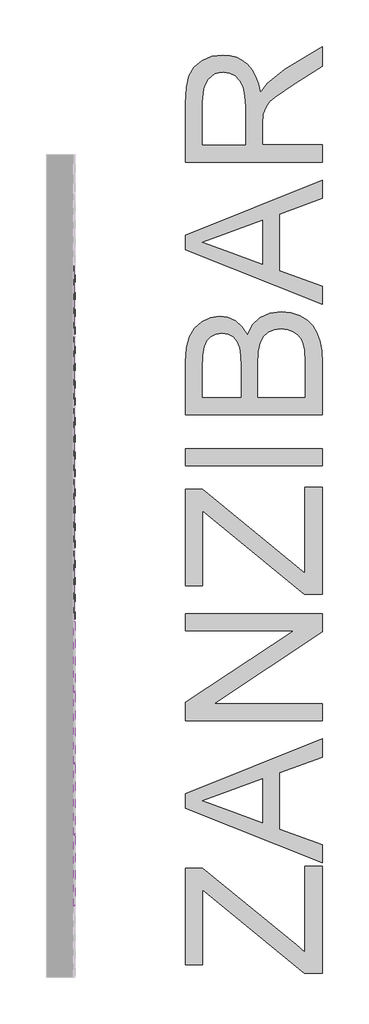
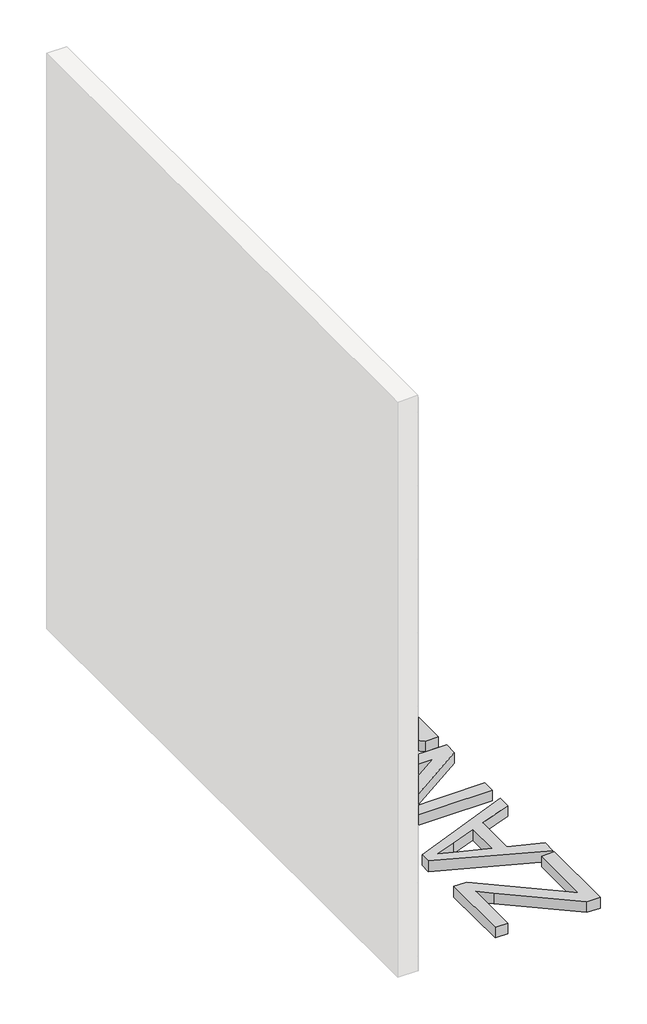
# One storey, part 43 of 45: 128 proxies.
"""IFC4 building model written with IfcOpenShell, lengths in millimetres."""

from ifc_helpers import new_model, si_unit, origin, origin_with_axes, place, context, project, spatial, polyline, outline, extrude, transform, mapped, element, save
from components import generic_models_ab0f2c30

model = new_model("IFC4")

# Units and contexts
model_context = context("Model", 3, world=origin())
ifc_project = project(units=[si_unit("LENGTHUNIT", "METRE", prefix="MILLI")], contexts=[model_context])

# Site, building, storey
site = spatial("IfcSite", under=ifc_project)
building = spatial("IfcBuilding", under=site)
storey = spatial("IfcBuildingStorey", under=building, Name="PORTOBELLO - SHOWROOM", Elevation=0.0)

# Proxies
placement = place(None, origin())
generic_models_shape = generic_models_ab0f2c30(model_context)
element("IfcBuildingElementProxy", 1, Name="PBSHOP - HORIZONTES ZANZIBAR 6,5X23 : ZANZIBAR", ObjectType="PBSHOP - HORIZONTES ZANZIBAR 6,5X23 : ZANZIBAR", at=placement, inside=storey, context=model_context, shape_type="MappedRepresentation", body=[
    mapped(generic_models_shape, transform((69111.8826867, 21050.0864672, 34.5), x_axis=(0.0, 0.0, 1.0), y_axis=(0.0, -1.0, 0.0), z_axis=(1.0, 0.0, 0.0))),
])
element("IfcBuildingElementProxy", 2, Name="PBSHOP - HORIZONTES ZANZIBAR 6,5X23 : ZANZIBAR", ObjectType="PBSHOP - HORIZONTES ZANZIBAR 6,5X23 : ZANZIBAR", at=placement, inside=storey, context=model_context, shape_type="MappedRepresentation", body=[
    mapped(generic_models_shape, transform((69111.8826867, 21284.0864672, 34.5), x_axis=(0.0, 0.0, 1.0), y_axis=(0.0, -1.0, 0.0), z_axis=(1.0, 0.0, 0.0))),
])
element("IfcBuildingElementProxy", 3, Name="PBSHOP - HORIZONTES ZANZIBAR 6,5X23 : ZANZIBAR", ObjectType="PBSHOP - HORIZONTES ZANZIBAR 6,5X23 : ZANZIBAR", at=placement, inside=storey, context=model_context, shape_type="MappedRepresentation", body=[
    mapped(generic_models_shape, transform((69111.8826867, 21518.0864672, 34.5), x_axis=(0.0, 0.0, 1.0), y_axis=(0.0, -1.0, 0.0), z_axis=(1.0, 0.0, 0.0))),
])
element("IfcBuildingElementProxy", 4, Name="PBSHOP - HORIZONTES ZANZIBAR 6,5X23 : ZANZIBAR", ObjectType="PBSHOP - HORIZONTES ZANZIBAR 6,5X23 : ZANZIBAR", at=placement, inside=storey, context=model_context, shape_type="MappedRepresentation", body=[
    mapped(generic_models_shape, transform((69111.8826867, 21752.0864672, 34.5), x_axis=(0.0, 0.0, 1.0), y_axis=(0.0, -1.0, 0.0), z_axis=(1.0, 0.0, 0.0))),
])
element("IfcBuildingElementProxy", 5, Name="PBSHOP - HORIZONTES ZANZIBAR 6,5X23 : ZANZIBAR", ObjectType="PBSHOP - HORIZONTES ZANZIBAR 6,5X23 : ZANZIBAR", at=placement, inside=storey, context=model_context, shape_type="MappedRepresentation", body=[
    mapped(generic_models_shape, transform((69111.8826867, 21986.0864672, 34.5), x_axis=(0.0, 0.0, 1.0), y_axis=(0.0, -1.0, 0.0), z_axis=(1.0, 0.0, 0.0))),
])
element("IfcBuildingElementProxy", 6, Name="PBSHOP - HORIZONTES ZANZIBAR 6,5X23 : ZANZIBAR", ObjectType="PBSHOP - HORIZONTES ZANZIBAR 6,5X23 : ZANZIBAR", at=placement, inside=storey, context=model_context, shape_type="MappedRepresentation", body=[
    mapped(generic_models_shape, transform((69111.8826867, 21050.0864672, 103.5), x_axis=(0.0, 0.0, 1.0), y_axis=(0.0, -1.0, 0.0), z_axis=(1.0, 0.0, 0.0))),
])
element("IfcBuildingElementProxy", 7, Name="PBSHOP - HORIZONTES ZANZIBAR 6,5X23 : ZANZIBAR", ObjectType="PBSHOP - HORIZONTES ZANZIBAR 6,5X23 : ZANZIBAR", at=placement, inside=storey, context=model_context, shape_type="MappedRepresentation", body=[
    mapped(generic_models_shape, transform((69111.8826867, 21284.0864672, 103.5), x_axis=(0.0, 0.0, 1.0), y_axis=(0.0, -1.0, 0.0), z_axis=(1.0, 0.0, 0.0))),
])
element("IfcBuildingElementProxy", 8, Name="PBSHOP - HORIZONTES ZANZIBAR 6,5X23 : ZANZIBAR", ObjectType="PBSHOP - HORIZONTES ZANZIBAR 6,5X23 : ZANZIBAR", at=placement, inside=storey, context=model_context, shape_type="MappedRepresentation", body=[
    mapped(generic_models_shape, transform((69111.8826867, 21518.0864672, 103.5), x_axis=(0.0, 0.0, 1.0), y_axis=(0.0, -1.0, 0.0), z_axis=(1.0, 0.0, 0.0))),
])
element("IfcBuildingElementProxy", 9, Name="PBSHOP - HORIZONTES ZANZIBAR 6,5X23 : ZANZIBAR", ObjectType="PBSHOP - HORIZONTES ZANZIBAR 6,5X23 : ZANZIBAR", at=placement, inside=storey, context=model_context, shape_type="MappedRepresentation", body=[
    mapped(generic_models_shape, transform((69111.8826867, 21752.0864672, 103.5), x_axis=(0.0, 0.0, 1.0), y_axis=(0.0, -1.0, 0.0), z_axis=(1.0, 0.0, 0.0))),
])
element("IfcBuildingElementProxy", 10, Name="PBSHOP - HORIZONTES ZANZIBAR 6,5X23 : ZANZIBAR", ObjectType="PBSHOP - HORIZONTES ZANZIBAR 6,5X23 : ZANZIBAR", at=placement, inside=storey, context=model_context, shape_type="MappedRepresentation", body=[
    mapped(generic_models_shape, transform((69111.8826867, 21986.0864672, 103.5), x_axis=(0.0, 0.0, 1.0), y_axis=(0.0, -1.0, 0.0), z_axis=(1.0, 0.0, 0.0))),
])
element("IfcBuildingElementProxy", 11, Name="PBSHOP - HORIZONTES ZANZIBAR 6,5X23 : ZANZIBAR", ObjectType="PBSHOP - HORIZONTES ZANZIBAR 6,5X23 : ZANZIBAR", at=placement, inside=storey, context=model_context, shape_type="MappedRepresentation", body=[
    mapped(generic_models_shape, transform((69111.8826867, 21050.0864672, 172.5), x_axis=(0.0, 0.0, 1.0), y_axis=(0.0, -1.0, 0.0), z_axis=(1.0, 0.0, 0.0))),
])
element("IfcBuildingElementProxy", 12, Name="PBSHOP - HORIZONTES ZANZIBAR 6,5X23 : ZANZIBAR", ObjectType="PBSHOP - HORIZONTES ZANZIBAR 6,5X23 : ZANZIBAR", at=placement, inside=storey, context=model_context, shape_type="MappedRepresentation", body=[
    mapped(generic_models_shape, transform((69111.8826867, 21284.0864672, 172.5), x_axis=(0.0, 0.0, 1.0), y_axis=(0.0, -1.0, 0.0), z_axis=(1.0, 0.0, 0.0))),
])
element("IfcBuildingElementProxy", 13, Name="PBSHOP - HORIZONTES ZANZIBAR 6,5X23 : ZANZIBAR", ObjectType="PBSHOP - HORIZONTES ZANZIBAR 6,5X23 : ZANZIBAR", at=placement, inside=storey, context=model_context, shape_type="MappedRepresentation", body=[
    mapped(generic_models_shape, transform((69111.8826867, 21518.0864672, 172.5), x_axis=(0.0, 0.0, 1.0), y_axis=(0.0, -1.0, 0.0), z_axis=(1.0, 0.0, 0.0))),
])
element("IfcBuildingElementProxy", 14, Name="PBSHOP - HORIZONTES ZANZIBAR 6,5X23 : ZANZIBAR", ObjectType="PBSHOP - HORIZONTES ZANZIBAR 6,5X23 : ZANZIBAR", at=placement, inside=storey, context=model_context, shape_type="MappedRepresentation", body=[
    mapped(generic_models_shape, transform((69111.8826867, 21752.0864672, 172.5), x_axis=(0.0, 0.0, 1.0), y_axis=(0.0, -1.0, 0.0), z_axis=(1.0, 0.0, 0.0))),
])
element("IfcBuildingElementProxy", 15, Name="PBSHOP - HORIZONTES ZANZIBAR 6,5X23 : ZANZIBAR", ObjectType="PBSHOP - HORIZONTES ZANZIBAR 6,5X23 : ZANZIBAR", at=placement, inside=storey, context=model_context, shape_type="MappedRepresentation", body=[
    mapped(generic_models_shape, transform((69111.8826867, 21986.0864672, 172.5), x_axis=(0.0, 0.0, 1.0), y_axis=(0.0, -1.0, 0.0), z_axis=(1.0, 0.0, 0.0))),
])
element("IfcBuildingElementProxy", 16, Name="PBSHOP - HORIZONTES ZANZIBAR 6,5X23 : ZANZIBAR", ObjectType="PBSHOP - HORIZONTES ZANZIBAR 6,5X23 : ZANZIBAR", at=placement, inside=storey, context=model_context, shape_type="MappedRepresentation", body=[
    mapped(generic_models_shape, transform((69111.8826867, 21050.0864672, 241.5), x_axis=(0.0, 0.0, 1.0), y_axis=(0.0, -1.0, 0.0), z_axis=(1.0, 0.0, 0.0))),
])
element("IfcBuildingElementProxy", 17, Name="PBSHOP - HORIZONTES ZANZIBAR 6,5X23 : ZANZIBAR", ObjectType="PBSHOP - HORIZONTES ZANZIBAR 6,5X23 : ZANZIBAR", at=placement, inside=storey, context=model_context, shape_type="MappedRepresentation", body=[
    mapped(generic_models_shape, transform((69111.8826867, 21284.0864672, 241.5), x_axis=(0.0, 0.0, 1.0), y_axis=(0.0, -1.0, 0.0), z_axis=(1.0, 0.0, 0.0))),
])
element("IfcBuildingElementProxy", 18, Name="PBSHOP - HORIZONTES ZANZIBAR 6,5X23 : ZANZIBAR", ObjectType="PBSHOP - HORIZONTES ZANZIBAR 6,5X23 : ZANZIBAR", at=placement, inside=storey, context=model_context, shape_type="MappedRepresentation", body=[
    mapped(generic_models_shape, transform((69111.8826867, 21518.0864672, 241.5), x_axis=(0.0, 0.0, 1.0), y_axis=(0.0, -1.0, 0.0), z_axis=(1.0, 0.0, 0.0))),
])
element("IfcBuildingElementProxy", 19, Name="PBSHOP - HORIZONTES ZANZIBAR 6,5X23 : ZANZIBAR", ObjectType="PBSHOP - HORIZONTES ZANZIBAR 6,5X23 : ZANZIBAR", at=placement, inside=storey, context=model_context, shape_type="MappedRepresentation", body=[
    mapped(generic_models_shape, transform((69111.8826867, 21752.0864672, 241.5), x_axis=(0.0, 0.0, 1.0), y_axis=(0.0, -1.0, 0.0), z_axis=(1.0, 0.0, 0.0))),
])
element("IfcBuildingElementProxy", 20, Name="PBSHOP - HORIZONTES ZANZIBAR 6,5X23 : ZANZIBAR", ObjectType="PBSHOP - HORIZONTES ZANZIBAR 6,5X23 : ZANZIBAR", at=placement, inside=storey, context=model_context, shape_type="MappedRepresentation", body=[
    mapped(generic_models_shape, transform((69111.8826867, 21986.0864672, 241.5), x_axis=(0.0, 0.0, 1.0), y_axis=(0.0, -1.0, 0.0), z_axis=(1.0, 0.0, 0.0))),
])
element("IfcBuildingElementProxy", 21, Name="PBSHOP - HORIZONTES ZANZIBAR 6,5X23 : ZANZIBAR", ObjectType="PBSHOP - HORIZONTES ZANZIBAR 6,5X23 : ZANZIBAR", at=placement, inside=storey, context=model_context, shape_type="MappedRepresentation", body=[
    mapped(generic_models_shape, transform((69111.8826867, 21050.0864672, 310.5), x_axis=(0.0, 0.0, 1.0), y_axis=(0.0, -1.0, 0.0), z_axis=(1.0, 0.0, 0.0))),
])
element("IfcBuildingElementProxy", 22, Name="PBSHOP - HORIZONTES ZANZIBAR 6,5X23 : ZANZIBAR", ObjectType="PBSHOP - HORIZONTES ZANZIBAR 6,5X23 : ZANZIBAR", at=placement, inside=storey, context=model_context, shape_type="MappedRepresentation", body=[
    mapped(generic_models_shape, transform((69111.8826867, 21284.0864672, 310.5), x_axis=(0.0, 0.0, 1.0), y_axis=(0.0, -1.0, 0.0), z_axis=(1.0, 0.0, 0.0))),
])
element("IfcBuildingElementProxy", 23, Name="PBSHOP - HORIZONTES ZANZIBAR 6,5X23 : ZANZIBAR", ObjectType="PBSHOP - HORIZONTES ZANZIBAR 6,5X23 : ZANZIBAR", at=placement, inside=storey, context=model_context, shape_type="MappedRepresentation", body=[
    mapped(generic_models_shape, transform((69111.8826867, 21518.0864672, 310.5), x_axis=(0.0, 0.0, 1.0), y_axis=(0.0, -1.0, 0.0), z_axis=(1.0, 0.0, 0.0))),
])
element("IfcBuildingElementProxy", 24, Name="PBSHOP - HORIZONTES ZANZIBAR 6,5X23 : ZANZIBAR", ObjectType="PBSHOP - HORIZONTES ZANZIBAR 6,5X23 : ZANZIBAR", at=placement, inside=storey, context=model_context, shape_type="MappedRepresentation", body=[
    mapped(generic_models_shape, transform((69111.8826867, 21752.0864672, 310.5), x_axis=(0.0, 0.0, 1.0), y_axis=(0.0, -1.0, 0.0), z_axis=(1.0, 0.0, 0.0))),
])
element("IfcBuildingElementProxy", 25, Name="PBSHOP - HORIZONTES ZANZIBAR 6,5X23 : ZANZIBAR", ObjectType="PBSHOP - HORIZONTES ZANZIBAR 6,5X23 : ZANZIBAR", at=placement, inside=storey, context=model_context, shape_type="MappedRepresentation", body=[
    mapped(generic_models_shape, transform((69111.8826867, 21986.0864672, 310.5), x_axis=(0.0, 0.0, 1.0), y_axis=(0.0, -1.0, 0.0), z_axis=(1.0, 0.0, 0.0))),
])
element("IfcBuildingElementProxy", 26, Name="PBSHOP - HORIZONTES ZANZIBAR 6,5X23 : ZANZIBAR", ObjectType="PBSHOP - HORIZONTES ZANZIBAR 6,5X23 : ZANZIBAR", at=placement, inside=storey, context=model_context, shape_type="MappedRepresentation", body=[
    mapped(generic_models_shape, transform((69111.8826867, 21050.0864672, 379.5), x_axis=(0.0, 0.0, 1.0), y_axis=(0.0, -1.0, 0.0), z_axis=(1.0, 0.0, 0.0))),
])
element("IfcBuildingElementProxy", 27, Name="PBSHOP - HORIZONTES ZANZIBAR 6,5X23 : ZANZIBAR", ObjectType="PBSHOP - HORIZONTES ZANZIBAR 6,5X23 : ZANZIBAR", at=placement, inside=storey, context=model_context, shape_type="MappedRepresentation", body=[
    mapped(generic_models_shape, transform((69111.8826867, 21284.0864672, 379.5), x_axis=(0.0, 0.0, 1.0), y_axis=(0.0, -1.0, 0.0), z_axis=(1.0, 0.0, 0.0))),
])
element("IfcBuildingElementProxy", 28, Name="PBSHOP - HORIZONTES ZANZIBAR 6,5X23 : ZANZIBAR", ObjectType="PBSHOP - HORIZONTES ZANZIBAR 6,5X23 : ZANZIBAR", at=placement, inside=storey, context=model_context, shape_type="MappedRepresentation", body=[
    mapped(generic_models_shape, transform((69111.8826867, 21518.0864672, 379.5), x_axis=(0.0, 0.0, 1.0), y_axis=(0.0, -1.0, 0.0), z_axis=(1.0, 0.0, 0.0))),
])
element("IfcBuildingElementProxy", 29, Name="PBSHOP - HORIZONTES ZANZIBAR 6,5X23 : ZANZIBAR", ObjectType="PBSHOP - HORIZONTES ZANZIBAR 6,5X23 : ZANZIBAR", at=placement, inside=storey, context=model_context, shape_type="MappedRepresentation", body=[
    mapped(generic_models_shape, transform((69111.8826867, 21752.0864672, 379.5), x_axis=(0.0, 0.0, 1.0), y_axis=(0.0, -1.0, 0.0), z_axis=(1.0, 0.0, 0.0))),
])
element("IfcBuildingElementProxy", 30, Name="PBSHOP - HORIZONTES ZANZIBAR 6,5X23 : ZANZIBAR", ObjectType="PBSHOP - HORIZONTES ZANZIBAR 6,5X23 : ZANZIBAR", at=placement, inside=storey, context=model_context, shape_type="MappedRepresentation", body=[
    mapped(generic_models_shape, transform((69111.8826867, 21986.0864672, 379.5), x_axis=(0.0, 0.0, 1.0), y_axis=(0.0, -1.0, 0.0), z_axis=(1.0, 0.0, 0.0))),
])
element("IfcBuildingElementProxy", 31, Name="PBSHOP - HORIZONTES ZANZIBAR 6,5X23 : ZANZIBAR", ObjectType="PBSHOP - HORIZONTES ZANZIBAR 6,5X23 : ZANZIBAR", at=placement, inside=storey, context=model_context, shape_type="MappedRepresentation", body=[
    mapped(generic_models_shape, transform((69111.8826867, 21050.0864672, 448.5), x_axis=(0.0, 0.0, 1.0), y_axis=(0.0, -1.0, 0.0), z_axis=(1.0, 0.0, 0.0))),
])
element("IfcBuildingElementProxy", 32, Name="PBSHOP - HORIZONTES ZANZIBAR 6,5X23 : ZANZIBAR", ObjectType="PBSHOP - HORIZONTES ZANZIBAR 6,5X23 : ZANZIBAR", at=placement, inside=storey, context=model_context, shape_type="MappedRepresentation", body=[
    mapped(generic_models_shape, transform((69111.8826867, 21284.0864672, 448.5), x_axis=(0.0, 0.0, 1.0), y_axis=(0.0, -1.0, 0.0), z_axis=(1.0, 0.0, 0.0))),
])
element("IfcBuildingElementProxy", 33, Name="PBSHOP - HORIZONTES ZANZIBAR 6,5X23 : ZANZIBAR", ObjectType="PBSHOP - HORIZONTES ZANZIBAR 6,5X23 : ZANZIBAR", at=placement, inside=storey, context=model_context, shape_type="MappedRepresentation", body=[
    mapped(generic_models_shape, transform((69111.8826867, 21518.0864672, 448.5), x_axis=(0.0, 0.0, 1.0), y_axis=(0.0, -1.0, 0.0), z_axis=(1.0, 0.0, 0.0))),
])
element("IfcBuildingElementProxy", 34, Name="PBSHOP - HORIZONTES ZANZIBAR 6,5X23 : ZANZIBAR", ObjectType="PBSHOP - HORIZONTES ZANZIBAR 6,5X23 : ZANZIBAR", at=placement, inside=storey, context=model_context, shape_type="MappedRepresentation", body=[
    mapped(generic_models_shape, transform((69111.8826867, 21752.0864672, 448.5), x_axis=(0.0, 0.0, 1.0), y_axis=(0.0, -1.0, 0.0), z_axis=(1.0, 0.0, 0.0))),
])
element("IfcBuildingElementProxy", 35, Name="PBSHOP - HORIZONTES ZANZIBAR 6,5X23 : ZANZIBAR", ObjectType="PBSHOP - HORIZONTES ZANZIBAR 6,5X23 : ZANZIBAR", at=placement, inside=storey, context=model_context, shape_type="MappedRepresentation", body=[
    mapped(generic_models_shape, transform((69111.8826867, 21986.0864672, 448.5), x_axis=(0.0, 0.0, 1.0), y_axis=(0.0, -1.0, 0.0), z_axis=(1.0, 0.0, 0.0))),
])
element("IfcBuildingElementProxy", 36, Name="PBSHOP - HORIZONTES ZANZIBAR 6,5X23 : ZANZIBAR", ObjectType="PBSHOP - HORIZONTES ZANZIBAR 6,5X23 : ZANZIBAR", at=placement, inside=storey, context=model_context, shape_type="MappedRepresentation", body=[
    mapped(generic_models_shape, transform((69111.8826867, 21050.0864672, 517.5), x_axis=(0.0, 0.0, 1.0), y_axis=(0.0, -1.0, 0.0), z_axis=(1.0, 0.0, 0.0))),
])
element("IfcBuildingElementProxy", 37, Name="PBSHOP - HORIZONTES ZANZIBAR 6,5X23 : ZANZIBAR", ObjectType="PBSHOP - HORIZONTES ZANZIBAR 6,5X23 : ZANZIBAR", at=placement, inside=storey, context=model_context, shape_type="MappedRepresentation", body=[
    mapped(generic_models_shape, transform((69111.8826867, 21284.0864672, 517.5), x_axis=(0.0, 0.0, 1.0), y_axis=(0.0, -1.0, 0.0), z_axis=(1.0, 0.0, 0.0))),
])
element("IfcBuildingElementProxy", 38, Name="PBSHOP - HORIZONTES ZANZIBAR 6,5X23 : ZANZIBAR", ObjectType="PBSHOP - HORIZONTES ZANZIBAR 6,5X23 : ZANZIBAR", at=placement, inside=storey, context=model_context, shape_type="MappedRepresentation", body=[
    mapped(generic_models_shape, transform((69111.8826867, 21518.0864672, 517.5), x_axis=(0.0, 0.0, 1.0), y_axis=(0.0, -1.0, 0.0), z_axis=(1.0, 0.0, 0.0))),
])
element("IfcBuildingElementProxy", 39, Name="PBSHOP - HORIZONTES ZANZIBAR 6,5X23 : ZANZIBAR", ObjectType="PBSHOP - HORIZONTES ZANZIBAR 6,5X23 : ZANZIBAR", at=placement, inside=storey, context=model_context, shape_type="MappedRepresentation", body=[
    mapped(generic_models_shape, transform((69111.8826867, 21752.0864672, 517.5), x_axis=(0.0, 0.0, 1.0), y_axis=(0.0, -1.0, 0.0), z_axis=(1.0, 0.0, 0.0))),
])
element("IfcBuildingElementProxy", 40, Name="PBSHOP - HORIZONTES ZANZIBAR 6,5X23 : ZANZIBAR", ObjectType="PBSHOP - HORIZONTES ZANZIBAR 6,5X23 : ZANZIBAR", at=placement, inside=storey, context=model_context, shape_type="MappedRepresentation", body=[
    mapped(generic_models_shape, transform((69111.8826867, 21986.0864672, 517.5), x_axis=(0.0, 0.0, 1.0), y_axis=(0.0, -1.0, 0.0), z_axis=(1.0, 0.0, 0.0))),
])
element("IfcBuildingElementProxy", 41, Name="PBSHOP - HORIZONTES ZANZIBAR 6,5X23 : ZANZIBAR", ObjectType="PBSHOP - HORIZONTES ZANZIBAR 6,5X23 : ZANZIBAR", at=placement, inside=storey, context=model_context, shape_type="MappedRepresentation", body=[
    mapped(generic_models_shape, transform((69111.8826867, 21050.0864672, 586.5), x_axis=(0.0, 0.0, 1.0), y_axis=(0.0, -1.0, 0.0), z_axis=(1.0, 0.0, 0.0))),
])
element("IfcBuildingElementProxy", 42, Name="PBSHOP - HORIZONTES ZANZIBAR 6,5X23 : ZANZIBAR", ObjectType="PBSHOP - HORIZONTES ZANZIBAR 6,5X23 : ZANZIBAR", at=placement, inside=storey, context=model_context, shape_type="MappedRepresentation", body=[
    mapped(generic_models_shape, transform((69111.8826867, 21284.0864672, 586.5), x_axis=(0.0, 0.0, 1.0), y_axis=(0.0, -1.0, 0.0), z_axis=(1.0, 0.0, 0.0))),
])
element("IfcBuildingElementProxy", 43, Name="PBSHOP - HORIZONTES ZANZIBAR 6,5X23 : ZANZIBAR", ObjectType="PBSHOP - HORIZONTES ZANZIBAR 6,5X23 : ZANZIBAR", at=placement, inside=storey, context=model_context, shape_type="MappedRepresentation", body=[
    mapped(generic_models_shape, transform((69111.8826867, 21518.0864672, 586.5), x_axis=(0.0, 0.0, 1.0), y_axis=(0.0, -1.0, 0.0), z_axis=(1.0, 0.0, 0.0))),
])
element("IfcBuildingElementProxy", 44, Name="PBSHOP - HORIZONTES ZANZIBAR 6,5X23 : ZANZIBAR", ObjectType="PBSHOP - HORIZONTES ZANZIBAR 6,5X23 : ZANZIBAR", at=placement, inside=storey, context=model_context, shape_type="MappedRepresentation", body=[
    mapped(generic_models_shape, transform((69111.8826867, 21752.0864672, 586.5), x_axis=(0.0, 0.0, 1.0), y_axis=(0.0, -1.0, 0.0), z_axis=(1.0, 0.0, 0.0))),
])
element("IfcBuildingElementProxy", 45, Name="PBSHOP - HORIZONTES ZANZIBAR 6,5X23 : ZANZIBAR", ObjectType="PBSHOP - HORIZONTES ZANZIBAR 6,5X23 : ZANZIBAR", at=placement, inside=storey, context=model_context, shape_type="MappedRepresentation", body=[
    mapped(generic_models_shape, transform((69111.8826867, 21986.0864672, 586.5), x_axis=(0.0, 0.0, 1.0), y_axis=(0.0, -1.0, 0.0), z_axis=(1.0, 0.0, 0.0))),
])
element("IfcBuildingElementProxy", 46, Name="PBSHOP - HORIZONTES ZANZIBAR 6,5X23 : ZANZIBAR", ObjectType="PBSHOP - HORIZONTES ZANZIBAR 6,5X23 : ZANZIBAR", at=placement, inside=storey, context=model_context, shape_type="MappedRepresentation", body=[
    mapped(generic_models_shape, transform((69111.8826867, 21050.0864672, 655.5), x_axis=(0.0, 0.0, 1.0), y_axis=(0.0, -1.0, 0.0), z_axis=(1.0, 0.0, 0.0))),
])
element("IfcBuildingElementProxy", 47, Name="PBSHOP - HORIZONTES ZANZIBAR 6,5X23 : ZANZIBAR", ObjectType="PBSHOP - HORIZONTES ZANZIBAR 6,5X23 : ZANZIBAR", at=placement, inside=storey, context=model_context, shape_type="MappedRepresentation", body=[
    mapped(generic_models_shape, transform((69111.8826867, 21284.0864672, 655.5), x_axis=(0.0, 0.0, 1.0), y_axis=(0.0, -1.0, 0.0), z_axis=(1.0, 0.0, 0.0))),
])
element("IfcBuildingElementProxy", 48, Name="PBSHOP - HORIZONTES ZANZIBAR 6,5X23 : ZANZIBAR", ObjectType="PBSHOP - HORIZONTES ZANZIBAR 6,5X23 : ZANZIBAR", at=placement, inside=storey, context=model_context, shape_type="MappedRepresentation", body=[
    mapped(generic_models_shape, transform((69111.8826867, 21518.0864672, 655.5), x_axis=(0.0, 0.0, 1.0), y_axis=(0.0, -1.0, 0.0), z_axis=(1.0, 0.0, 0.0))),
])
element("IfcBuildingElementProxy", 49, Name="PBSHOP - HORIZONTES ZANZIBAR 6,5X23 : ZANZIBAR", ObjectType="PBSHOP - HORIZONTES ZANZIBAR 6,5X23 : ZANZIBAR", at=placement, inside=storey, context=model_context, shape_type="MappedRepresentation", body=[
    mapped(generic_models_shape, transform((69111.8826867, 21752.0864672, 655.5), x_axis=(0.0, 0.0, 1.0), y_axis=(0.0, -1.0, 0.0), z_axis=(1.0, 0.0, 0.0))),
])
element("IfcBuildingElementProxy", 50, Name="PBSHOP - HORIZONTES ZANZIBAR 6,5X23 : ZANZIBAR", ObjectType="PBSHOP - HORIZONTES ZANZIBAR 6,5X23 : ZANZIBAR", at=placement, inside=storey, context=model_context, shape_type="MappedRepresentation", body=[
    mapped(generic_models_shape, transform((69111.8826867, 21986.0864672, 655.5), x_axis=(0.0, 0.0, 1.0), y_axis=(0.0, -1.0, 0.0), z_axis=(1.0, 0.0, 0.0))),
])
element("IfcBuildingElementProxy", 51, Name="PBSHOP - HORIZONTES ZANZIBAR 6,5X23 : ZANZIBAR", ObjectType="PBSHOP - HORIZONTES ZANZIBAR 6,5X23 : ZANZIBAR", at=placement, inside=storey, context=model_context, shape_type="MappedRepresentation", body=[
    mapped(generic_models_shape, transform((69111.8826867, 21050.0864672, 724.5), x_axis=(0.0, 0.0, 1.0), y_axis=(0.0, -1.0, 0.0), z_axis=(1.0, 0.0, 0.0))),
])
element("IfcBuildingElementProxy", 52, Name="PBSHOP - HORIZONTES ZANZIBAR 6,5X23 : ZANZIBAR", ObjectType="PBSHOP - HORIZONTES ZANZIBAR 6,5X23 : ZANZIBAR", at=placement, inside=storey, context=model_context, shape_type="MappedRepresentation", body=[
    mapped(generic_models_shape, transform((69111.8826867, 21284.0864672, 724.5), x_axis=(0.0, 0.0, 1.0), y_axis=(0.0, -1.0, 0.0), z_axis=(1.0, 0.0, 0.0))),
])
element("IfcBuildingElementProxy", 53, Name="PBSHOP - HORIZONTES ZANZIBAR 6,5X23 : ZANZIBAR", ObjectType="PBSHOP - HORIZONTES ZANZIBAR 6,5X23 : ZANZIBAR", at=placement, inside=storey, context=model_context, shape_type="MappedRepresentation", body=[
    mapped(generic_models_shape, transform((69111.8826867, 21518.0864672, 724.5), x_axis=(0.0, 0.0, 1.0), y_axis=(0.0, -1.0, 0.0), z_axis=(1.0, 0.0, 0.0))),
])
element("IfcBuildingElementProxy", 54, Name="PBSHOP - HORIZONTES ZANZIBAR 6,5X23 : ZANZIBAR", ObjectType="PBSHOP - HORIZONTES ZANZIBAR 6,5X23 : ZANZIBAR", at=placement, inside=storey, context=model_context, shape_type="MappedRepresentation", body=[
    mapped(generic_models_shape, transform((69111.8826867, 21752.0864672, 724.5), x_axis=(0.0, 0.0, 1.0), y_axis=(0.0, -1.0, 0.0), z_axis=(1.0, 0.0, 0.0))),
])
element("IfcBuildingElementProxy", 55, Name="PBSHOP - HORIZONTES ZANZIBAR 6,5X23 : ZANZIBAR", ObjectType="PBSHOP - HORIZONTES ZANZIBAR 6,5X23 : ZANZIBAR", at=placement, inside=storey, context=model_context, shape_type="MappedRepresentation", body=[
    mapped(generic_models_shape, transform((69111.8826867, 21986.0864672, 724.5), x_axis=(0.0, 0.0, 1.0), y_axis=(0.0, -1.0, 0.0), z_axis=(1.0, 0.0, 0.0))),
])
element("IfcBuildingElementProxy", 56, Name="PBSHOP - HORIZONTES ZANZIBAR 6,5X23 : ZANZIBAR", ObjectType="PBSHOP - HORIZONTES ZANZIBAR 6,5X23 : ZANZIBAR", at=placement, inside=storey, context=model_context, shape_type="MappedRepresentation", body=[
    mapped(generic_models_shape, transform((69111.8826867, 21050.0864672, 793.5), x_axis=(0.0, 0.0, 1.0), y_axis=(0.0, -1.0, 0.0), z_axis=(1.0, 0.0, 0.0))),
])
element("IfcBuildingElementProxy", 57, Name="PBSHOP - HORIZONTES ZANZIBAR 6,5X23 : ZANZIBAR", ObjectType="PBSHOP - HORIZONTES ZANZIBAR 6,5X23 : ZANZIBAR", at=placement, inside=storey, context=model_context, shape_type="MappedRepresentation", body=[
    mapped(generic_models_shape, transform((69111.8826867, 21284.0864672, 793.5), x_axis=(0.0, 0.0, 1.0), y_axis=(0.0, -1.0, 0.0), z_axis=(1.0, 0.0, 0.0))),
])
element("IfcBuildingElementProxy", 58, Name="PBSHOP - HORIZONTES ZANZIBAR 6,5X23 : ZANZIBAR", ObjectType="PBSHOP - HORIZONTES ZANZIBAR 6,5X23 : ZANZIBAR", at=placement, inside=storey, context=model_context, shape_type="MappedRepresentation", body=[
    mapped(generic_models_shape, transform((69111.8826867, 21518.0864672, 793.5), x_axis=(0.0, 0.0, 1.0), y_axis=(0.0, -1.0, 0.0), z_axis=(1.0, 0.0, 0.0))),
])
element("IfcBuildingElementProxy", 59, Name="PBSHOP - HORIZONTES ZANZIBAR 6,5X23 : ZANZIBAR", ObjectType="PBSHOP - HORIZONTES ZANZIBAR 6,5X23 : ZANZIBAR", at=placement, inside=storey, context=model_context, shape_type="MappedRepresentation", body=[
    mapped(generic_models_shape, transform((69111.8826867, 21752.0864672, 793.5), x_axis=(0.0, 0.0, 1.0), y_axis=(0.0, -1.0, 0.0), z_axis=(1.0, 0.0, 0.0))),
])
element("IfcBuildingElementProxy", 60, Name="PBSHOP - HORIZONTES ZANZIBAR 6,5X23 : ZANZIBAR", ObjectType="PBSHOP - HORIZONTES ZANZIBAR 6,5X23 : ZANZIBAR", at=placement, inside=storey, context=model_context, shape_type="MappedRepresentation", body=[
    mapped(generic_models_shape, transform((69111.8826867, 21986.0864672, 793.5), x_axis=(0.0, 0.0, 1.0), y_axis=(0.0, -1.0, 0.0), z_axis=(1.0, 0.0, 0.0))),
])
element("IfcBuildingElementProxy", 61, Name="PBSHOP - HORIZONTES ZANZIBAR 6,5X23 : ZANZIBAR", ObjectType="PBSHOP - HORIZONTES ZANZIBAR 6,5X23 : ZANZIBAR", at=placement, inside=storey, context=model_context, shape_type="MappedRepresentation", body=[
    mapped(generic_models_shape, transform((69111.8826867, 21050.0864672, 862.5), x_axis=(0.0, 0.0, 1.0), y_axis=(0.0, -1.0, 0.0), z_axis=(1.0, 0.0, 0.0))),
])
element("IfcBuildingElementProxy", 62, Name="PBSHOP - HORIZONTES ZANZIBAR 6,5X23 : ZANZIBAR", ObjectType="PBSHOP - HORIZONTES ZANZIBAR 6,5X23 : ZANZIBAR", at=placement, inside=storey, context=model_context, shape_type="MappedRepresentation", body=[
    mapped(generic_models_shape, transform((69111.8826867, 21284.0864672, 862.5), x_axis=(0.0, 0.0, 1.0), y_axis=(0.0, -1.0, 0.0), z_axis=(1.0, 0.0, 0.0))),
])
element("IfcBuildingElementProxy", 63, Name="PBSHOP - HORIZONTES ZANZIBAR 6,5X23 : ZANZIBAR", ObjectType="PBSHOP - HORIZONTES ZANZIBAR 6,5X23 : ZANZIBAR", at=placement, inside=storey, context=model_context, shape_type="MappedRepresentation", body=[
    mapped(generic_models_shape, transform((69111.8826867, 21518.0864672, 862.5), x_axis=(0.0, 0.0, 1.0), y_axis=(0.0, -1.0, 0.0), z_axis=(1.0, 0.0, 0.0))),
])
element("IfcBuildingElementProxy", 64, Name="PBSHOP - HORIZONTES ZANZIBAR 6,5X23 : ZANZIBAR", ObjectType="PBSHOP - HORIZONTES ZANZIBAR 6,5X23 : ZANZIBAR", at=placement, inside=storey, context=model_context, shape_type="MappedRepresentation", body=[
    mapped(generic_models_shape, transform((69111.8826867, 21752.0864672, 862.5), x_axis=(0.0, 0.0, 1.0), y_axis=(0.0, -1.0, 0.0), z_axis=(1.0, 0.0, 0.0))),
])
element("IfcBuildingElementProxy", 65, Name="PBSHOP - HORIZONTES ZANZIBAR 6,5X23 : ZANZIBAR", ObjectType="PBSHOP - HORIZONTES ZANZIBAR 6,5X23 : ZANZIBAR", at=placement, inside=storey, context=model_context, shape_type="MappedRepresentation", body=[
    mapped(generic_models_shape, transform((69111.8826867, 21986.0864672, 862.5), x_axis=(0.0, 0.0, 1.0), y_axis=(0.0, -1.0, 0.0), z_axis=(1.0, 0.0, 0.0))),
])
element("IfcBuildingElementProxy", 66, Name="PBSHOP - HORIZONTES ZANZIBAR 6,5X23 : ZANZIBAR", ObjectType="PBSHOP - HORIZONTES ZANZIBAR 6,5X23 : ZANZIBAR", at=placement, inside=storey, context=model_context, shape_type="MappedRepresentation", body=[
    mapped(generic_models_shape, transform((69111.8826867, 21050.0864672, 931.5), x_axis=(0.0, 0.0, 1.0), y_axis=(0.0, -1.0, 0.0), z_axis=(1.0, 0.0, 0.0))),
])
element("IfcBuildingElementProxy", 67, Name="PBSHOP - HORIZONTES ZANZIBAR 6,5X23 : ZANZIBAR", ObjectType="PBSHOP - HORIZONTES ZANZIBAR 6,5X23 : ZANZIBAR", at=placement, inside=storey, context=model_context, shape_type="MappedRepresentation", body=[
    mapped(generic_models_shape, transform((69111.8826867, 21284.0864672, 931.5), x_axis=(0.0, 0.0, 1.0), y_axis=(0.0, -1.0, 0.0), z_axis=(1.0, 0.0, 0.0))),
])
element("IfcBuildingElementProxy", 68, Name="PBSHOP - HORIZONTES ZANZIBAR 6,5X23 : ZANZIBAR", ObjectType="PBSHOP - HORIZONTES ZANZIBAR 6,5X23 : ZANZIBAR", at=placement, inside=storey, context=model_context, shape_type="MappedRepresentation", body=[
    mapped(generic_models_shape, transform((69111.8826867, 21518.0864672, 931.5), x_axis=(0.0, 0.0, 1.0), y_axis=(0.0, -1.0, 0.0), z_axis=(1.0, 0.0, 0.0))),
])
element("IfcBuildingElementProxy", 69, Name="PBSHOP - HORIZONTES ZANZIBAR 6,5X23 : ZANZIBAR", ObjectType="PBSHOP - HORIZONTES ZANZIBAR 6,5X23 : ZANZIBAR", at=placement, inside=storey, context=model_context, shape_type="MappedRepresentation", body=[
    mapped(generic_models_shape, transform((69111.8826867, 21752.0864672, 931.5), x_axis=(0.0, 0.0, 1.0), y_axis=(0.0, -1.0, 0.0), z_axis=(1.0, 0.0, 0.0))),
])
element("IfcBuildingElementProxy", 70, Name="PBSHOP - HORIZONTES ZANZIBAR 6,5X23 : ZANZIBAR", ObjectType="PBSHOP - HORIZONTES ZANZIBAR 6,5X23 : ZANZIBAR", at=placement, inside=storey, context=model_context, shape_type="MappedRepresentation", body=[
    mapped(generic_models_shape, transform((69111.8826867, 21986.0864672, 931.5), x_axis=(0.0, 0.0, 1.0), y_axis=(0.0, -1.0, 0.0), z_axis=(1.0, 0.0, 0.0))),
])
element("IfcBuildingElementProxy", 71, Name="PBSHOP - HORIZONTES ZANZIBAR 6,5X23 : ZANZIBAR", ObjectType="PBSHOP - HORIZONTES ZANZIBAR 6,5X23 : ZANZIBAR", at=placement, inside=storey, context=model_context, shape_type="MappedRepresentation", body=[
    mapped(generic_models_shape, transform((69111.8826867, 21050.0864672, 1000.5), x_axis=(0.0, 0.0, 1.0), y_axis=(0.0, -1.0, 0.0), z_axis=(1.0, 0.0, 0.0))),
])
element("IfcBuildingElementProxy", 72, Name="PBSHOP - HORIZONTES ZANZIBAR 6,5X23 : ZANZIBAR", ObjectType="PBSHOP - HORIZONTES ZANZIBAR 6,5X23 : ZANZIBAR", at=placement, inside=storey, context=model_context, shape_type="MappedRepresentation", body=[
    mapped(generic_models_shape, transform((69111.8826867, 21284.0864672, 1000.5), x_axis=(0.0, 0.0, 1.0), y_axis=(0.0, -1.0, 0.0), z_axis=(1.0, 0.0, 0.0))),
])
element("IfcBuildingElementProxy", 73, Name="PBSHOP - HORIZONTES ZANZIBAR 6,5X23 : ZANZIBAR", ObjectType="PBSHOP - HORIZONTES ZANZIBAR 6,5X23 : ZANZIBAR", at=placement, inside=storey, context=model_context, shape_type="MappedRepresentation", body=[
    mapped(generic_models_shape, transform((69111.8826867, 21518.0864672, 1000.5), x_axis=(0.0, 0.0, 1.0), y_axis=(0.0, -1.0, 0.0), z_axis=(1.0, 0.0, 0.0))),
])
element("IfcBuildingElementProxy", 74, Name="PBSHOP - HORIZONTES ZANZIBAR 6,5X23 : ZANZIBAR", ObjectType="PBSHOP - HORIZONTES ZANZIBAR 6,5X23 : ZANZIBAR", at=placement, inside=storey, context=model_context, shape_type="MappedRepresentation", body=[
    mapped(generic_models_shape, transform((69111.8826867, 21752.0864672, 1000.5), x_axis=(0.0, 0.0, 1.0), y_axis=(0.0, -1.0, 0.0), z_axis=(1.0, 0.0, 0.0))),
])
element("IfcBuildingElementProxy", 75, Name="PBSHOP - HORIZONTES ZANZIBAR 6,5X23 : ZANZIBAR", ObjectType="PBSHOP - HORIZONTES ZANZIBAR 6,5X23 : ZANZIBAR", at=placement, inside=storey, context=model_context, shape_type="MappedRepresentation", body=[
    mapped(generic_models_shape, transform((69111.8826867, 21986.0864672, 1000.5), x_axis=(0.0, 0.0, 1.0), y_axis=(0.0, -1.0, 0.0), z_axis=(1.0, 0.0, 0.0))),
])
element("IfcBuildingElementProxy", 76, Name="PBSHOP - HORIZONTES ZANZIBAR 6,5X23 : ZANZIBAR", ObjectType="PBSHOP - HORIZONTES ZANZIBAR 6,5X23 : ZANZIBAR", at=placement, inside=storey, context=model_context, shape_type="MappedRepresentation", body=[
    mapped(generic_models_shape, transform((69111.8826867, 21050.0864672, 1069.5), x_axis=(0.0, 0.0, 1.0), y_axis=(0.0, -1.0, 0.0), z_axis=(1.0, 0.0, 0.0))),
])
element("IfcBuildingElementProxy", 77, Name="PBSHOP - HORIZONTES ZANZIBAR 6,5X23 : ZANZIBAR", ObjectType="PBSHOP - HORIZONTES ZANZIBAR 6,5X23 : ZANZIBAR", at=placement, inside=storey, context=model_context, shape_type="MappedRepresentation", body=[
    mapped(generic_models_shape, transform((69111.8826867, 21284.0864672, 1069.5), x_axis=(0.0, 0.0, 1.0), y_axis=(0.0, -1.0, 0.0), z_axis=(1.0, 0.0, 0.0))),
])
element("IfcBuildingElementProxy", 78, Name="PBSHOP - HORIZONTES ZANZIBAR 6,5X23 : ZANZIBAR", ObjectType="PBSHOP - HORIZONTES ZANZIBAR 6,5X23 : ZANZIBAR", at=placement, inside=storey, context=model_context, shape_type="MappedRepresentation", body=[
    mapped(generic_models_shape, transform((69111.8826867, 21518.0864672, 1069.5), x_axis=(0.0, 0.0, 1.0), y_axis=(0.0, -1.0, 0.0), z_axis=(1.0, 0.0, 0.0))),
])
element("IfcBuildingElementProxy", 79, Name="PBSHOP - HORIZONTES ZANZIBAR 6,5X23 : ZANZIBAR", ObjectType="PBSHOP - HORIZONTES ZANZIBAR 6,5X23 : ZANZIBAR", at=placement, inside=storey, context=model_context, shape_type="MappedRepresentation", body=[
    mapped(generic_models_shape, transform((69111.8826867, 21752.0864672, 1069.5), x_axis=(0.0, 0.0, 1.0), y_axis=(0.0, -1.0, 0.0), z_axis=(1.0, 0.0, 0.0))),
])
element("IfcBuildingElementProxy", 80, Name="PBSHOP - HORIZONTES ZANZIBAR 6,5X23 : ZANZIBAR", ObjectType="PBSHOP - HORIZONTES ZANZIBAR 6,5X23 : ZANZIBAR", at=placement, inside=storey, context=model_context, shape_type="MappedRepresentation", body=[
    mapped(generic_models_shape, transform((69111.8826867, 21986.0864672, 1069.5), x_axis=(0.0, 0.0, 1.0), y_axis=(0.0, -1.0, 0.0), z_axis=(1.0, 0.0, 0.0))),
])
element("IfcBuildingElementProxy", 81, Name="PBSHOP - HORIZONTES ZANZIBAR 6,5X23 : ZANZIBAR", ObjectType="PBSHOP - HORIZONTES ZANZIBAR 6,5X23 : ZANZIBAR", at=placement, inside=storey, context=model_context, shape_type="MappedRepresentation", body=[
    mapped(generic_models_shape, transform((69111.8826867, 21050.0864672, 1138.5), x_axis=(0.0, 0.0, 1.0), y_axis=(0.0, -1.0, 0.0), z_axis=(1.0, 0.0, 0.0))),
])
element("IfcBuildingElementProxy", 82, Name="PBSHOP - HORIZONTES ZANZIBAR 6,5X23 : ZANZIBAR", ObjectType="PBSHOP - HORIZONTES ZANZIBAR 6,5X23 : ZANZIBAR", at=placement, inside=storey, context=model_context, shape_type="MappedRepresentation", body=[
    mapped(generic_models_shape, transform((69111.8826867, 21284.0864672, 1138.5), x_axis=(0.0, 0.0, 1.0), y_axis=(0.0, -1.0, 0.0), z_axis=(1.0, 0.0, 0.0))),
])
element("IfcBuildingElementProxy", 83, Name="PBSHOP - HORIZONTES ZANZIBAR 6,5X23 : ZANZIBAR", ObjectType="PBSHOP - HORIZONTES ZANZIBAR 6,5X23 : ZANZIBAR", at=placement, inside=storey, context=model_context, shape_type="MappedRepresentation", body=[
    mapped(generic_models_shape, transform((69111.8826867, 21518.0864672, 1138.5), x_axis=(0.0, 0.0, 1.0), y_axis=(0.0, -1.0, 0.0), z_axis=(1.0, 0.0, 0.0))),
])
element("IfcBuildingElementProxy", 84, Name="PBSHOP - HORIZONTES ZANZIBAR 6,5X23 : ZANZIBAR", ObjectType="PBSHOP - HORIZONTES ZANZIBAR 6,5X23 : ZANZIBAR", at=placement, inside=storey, context=model_context, shape_type="MappedRepresentation", body=[
    mapped(generic_models_shape, transform((69111.8826867, 21752.0864672, 1138.5), x_axis=(0.0, 0.0, 1.0), y_axis=(0.0, -1.0, 0.0), z_axis=(1.0, 0.0, 0.0))),
])
element("IfcBuildingElementProxy", 85, Name="PBSHOP - HORIZONTES ZANZIBAR 6,5X23 : ZANZIBAR", ObjectType="PBSHOP - HORIZONTES ZANZIBAR 6,5X23 : ZANZIBAR", at=placement, inside=storey, context=model_context, shape_type="MappedRepresentation", body=[
    mapped(generic_models_shape, transform((69111.8826867, 21986.0864672, 1138.5), x_axis=(0.0, 0.0, 1.0), y_axis=(0.0, -1.0, 0.0), z_axis=(1.0, 0.0, 0.0))),
])
element("IfcBuildingElementProxy", 86, Name="PBSHOP - HORIZONTES ZANZIBAR 6,5X23 : ZANZIBAR", ObjectType="PBSHOP - HORIZONTES ZANZIBAR 6,5X23 : ZANZIBAR", at=placement, inside=storey, context=model_context, shape_type="MappedRepresentation", body=[
    mapped(generic_models_shape, transform((69111.8826867, 21050.0864672, 1207.5), x_axis=(0.0, 0.0, 1.0), y_axis=(0.0, -1.0, 0.0), z_axis=(1.0, 0.0, 0.0))),
])
element("IfcBuildingElementProxy", 87, Name="PBSHOP - HORIZONTES ZANZIBAR 6,5X23 : ZANZIBAR", ObjectType="PBSHOP - HORIZONTES ZANZIBAR 6,5X23 : ZANZIBAR", at=placement, inside=storey, context=model_context, shape_type="MappedRepresentation", body=[
    mapped(generic_models_shape, transform((69111.8826867, 21284.0864672, 1207.5), x_axis=(0.0, 0.0, 1.0), y_axis=(0.0, -1.0, 0.0), z_axis=(1.0, 0.0, 0.0))),
])
element("IfcBuildingElementProxy", 88, Name="PBSHOP - HORIZONTES ZANZIBAR 6,5X23 : ZANZIBAR", ObjectType="PBSHOP - HORIZONTES ZANZIBAR 6,5X23 : ZANZIBAR", at=placement, inside=storey, context=model_context, shape_type="MappedRepresentation", body=[
    mapped(generic_models_shape, transform((69111.8826867, 21518.0864672, 1207.5), x_axis=(0.0, 0.0, 1.0), y_axis=(0.0, -1.0, 0.0), z_axis=(1.0, 0.0, 0.0))),
])
element("IfcBuildingElementProxy", 89, Name="PBSHOP - HORIZONTES ZANZIBAR 6,5X23 : ZANZIBAR", ObjectType="PBSHOP - HORIZONTES ZANZIBAR 6,5X23 : ZANZIBAR", at=placement, inside=storey, context=model_context, shape_type="MappedRepresentation", body=[
    mapped(generic_models_shape, transform((69111.8826867, 21752.0864672, 1207.5), x_axis=(0.0, 0.0, 1.0), y_axis=(0.0, -1.0, 0.0), z_axis=(1.0, 0.0, 0.0))),
])
element("IfcBuildingElementProxy", 90, Name="PBSHOP - HORIZONTES ZANZIBAR 6,5X23 : ZANZIBAR", ObjectType="PBSHOP - HORIZONTES ZANZIBAR 6,5X23 : ZANZIBAR", at=placement, inside=storey, context=model_context, shape_type="MappedRepresentation", body=[
    mapped(generic_models_shape, transform((69111.8826867, 21986.0864672, 1207.5), x_axis=(0.0, 0.0, 1.0), y_axis=(0.0, -1.0, 0.0), z_axis=(1.0, 0.0, 0.0))),
])
element("IfcBuildingElementProxy", 91, Name="PBSHOP - HORIZONTES ZANZIBAR 6,5X23 : ZANZIBAR", ObjectType="PBSHOP - HORIZONTES ZANZIBAR 6,5X23 : ZANZIBAR", at=placement, inside=storey, context=model_context, shape_type="MappedRepresentation", body=[
    mapped(generic_models_shape, transform((69111.8826867, 20816.0864672, 2035.5), x_axis=(0.0, 0.0, 1.0), y_axis=(0.0, -1.0, 0.0), z_axis=(1.0, 0.0, 0.0))),
])
element("IfcBuildingElementProxy", 92, Name="PBSHOP - HORIZONTES ZANZIBAR 6,5X23 : ZANZIBAR", ObjectType="PBSHOP - HORIZONTES ZANZIBAR 6,5X23 : ZANZIBAR", at=placement, inside=storey, context=model_context, shape_type="MappedRepresentation", body=[
    mapped(generic_models_shape, transform((69111.8826867, 20114.0864672, 2104.5), x_axis=(0.0, 0.0, 1.0), y_axis=(0.0, -1.0, 0.0), z_axis=(1.0, 0.0, 0.0))),
])
element("IfcBuildingElementProxy", 93, Name="PBSHOP - HORIZONTES ZANZIBAR 6,5X23 : ZANZIBAR", ObjectType="PBSHOP - HORIZONTES ZANZIBAR 6,5X23 : ZANZIBAR", at=placement, inside=storey, context=model_context, shape_type="MappedRepresentation", body=[
    mapped(generic_models_shape, transform((69111.8826867, 20348.0864672, 2104.5), x_axis=(0.0, 0.0, 1.0), y_axis=(0.0, -1.0, 0.0), z_axis=(1.0, 0.0, 0.0))),
])
element("IfcBuildingElementProxy", 94, Name="PBSHOP - HORIZONTES ZANZIBAR 6,5X23 : ZANZIBAR", ObjectType="PBSHOP - HORIZONTES ZANZIBAR 6,5X23 : ZANZIBAR", at=placement, inside=storey, context=model_context, shape_type="MappedRepresentation", body=[
    mapped(generic_models_shape, transform((69111.8826867, 20582.0864672, 2104.5), x_axis=(0.0, 0.0, 1.0), y_axis=(0.0, -1.0, 0.0), z_axis=(1.0, 0.0, 0.0))),
])
element("IfcBuildingElementProxy", 95, Name="PBSHOP - HORIZONTES ZANZIBAR 6,5X23 : ZANZIBAR", ObjectType="PBSHOP - HORIZONTES ZANZIBAR 6,5X23 : ZANZIBAR", at=placement, inside=storey, context=model_context, shape_type="MappedRepresentation", body=[
    mapped(generic_models_shape, transform((69111.8826867, 20816.0864672, 2104.5), x_axis=(0.0, 0.0, 1.0), y_axis=(0.0, -1.0, 0.0), z_axis=(1.0, 0.0, 0.0))),
])
element("IfcBuildingElementProxy", 96, Name="PBSHOP - HORIZONTES ZANZIBAR 6,5X23 : ZANZIBAR", ObjectType="PBSHOP - HORIZONTES ZANZIBAR 6,5X23 : ZANZIBAR", at=placement, inside=storey, context=model_context, shape_type="MappedRepresentation", body=[
    mapped(generic_models_shape, transform((69111.8826867, 20114.0864672, 2173.5), x_axis=(0.0, 0.0, 1.0), y_axis=(0.0, -1.0, 0.0), z_axis=(1.0, 0.0, 0.0))),
])
element("IfcBuildingElementProxy", 97, Name="PBSHOP - HORIZONTES ZANZIBAR 6,5X23 : ZANZIBAR", ObjectType="PBSHOP - HORIZONTES ZANZIBAR 6,5X23 : ZANZIBAR", at=placement, inside=storey, context=model_context, shape_type="MappedRepresentation", body=[
    mapped(generic_models_shape, transform((69111.8826867, 20348.0864672, 2173.5), x_axis=(0.0, 0.0, 1.0), y_axis=(0.0, -1.0, 0.0), z_axis=(1.0, 0.0, 0.0))),
])
element("IfcBuildingElementProxy", 98, Name="PBSHOP - HORIZONTES ZANZIBAR 6,5X23 : ZANZIBAR", ObjectType="PBSHOP - HORIZONTES ZANZIBAR 6,5X23 : ZANZIBAR", at=placement, inside=storey, context=model_context, shape_type="MappedRepresentation", body=[
    mapped(generic_models_shape, transform((69111.8826867, 20582.0864672, 2173.5), x_axis=(0.0, 0.0, 1.0), y_axis=(0.0, -1.0, 0.0), z_axis=(1.0, 0.0, 0.0))),
])
element("IfcBuildingElementProxy", 99, Name="PBSHOP - HORIZONTES ZANZIBAR 6,5X23 : ZANZIBAR", ObjectType="PBSHOP - HORIZONTES ZANZIBAR 6,5X23 : ZANZIBAR", at=placement, inside=storey, context=model_context, shape_type="MappedRepresentation", body=[
    mapped(generic_models_shape, transform((69111.8826867, 20816.0864672, 2173.5), x_axis=(0.0, 0.0, 1.0), y_axis=(0.0, -1.0, 0.0), z_axis=(1.0, 0.0, 0.0))),
])
element("IfcBuildingElementProxy", 100, Name="PBSHOP - HORIZONTES ZANZIBAR 6,5X23 : ZANZIBAR", ObjectType="PBSHOP - HORIZONTES ZANZIBAR 6,5X23 : ZANZIBAR", at=placement, inside=storey, context=model_context, shape_type="MappedRepresentation", body=[
    mapped(generic_models_shape, transform((69111.8826867, 20114.0864672, 2242.5), x_axis=(0.0, 0.0, 1.0), y_axis=(0.0, -1.0, 0.0), z_axis=(1.0, 0.0, 0.0))),
])
element("IfcBuildingElementProxy", 101, Name="PBSHOP - HORIZONTES ZANZIBAR 6,5X23 : ZANZIBAR", ObjectType="PBSHOP - HORIZONTES ZANZIBAR 6,5X23 : ZANZIBAR", at=placement, inside=storey, context=model_context, shape_type="MappedRepresentation", body=[
    mapped(generic_models_shape, transform((69111.8826867, 20348.0864672, 2242.5), x_axis=(0.0, 0.0, 1.0), y_axis=(0.0, -1.0, 0.0), z_axis=(1.0, 0.0, 0.0))),
])
element("IfcBuildingElementProxy", 102, Name="PBSHOP - HORIZONTES ZANZIBAR 6,5X23 : ZANZIBAR", ObjectType="PBSHOP - HORIZONTES ZANZIBAR 6,5X23 : ZANZIBAR", at=placement, inside=storey, context=model_context, shape_type="MappedRepresentation", body=[
    mapped(generic_models_shape, transform((69111.8826867, 20582.0864672, 2242.5), x_axis=(0.0, 0.0, 1.0), y_axis=(0.0, -1.0, 0.0), z_axis=(1.0, 0.0, 0.0))),
])
element("IfcBuildingElementProxy", 103, Name="PBSHOP - HORIZONTES ZANZIBAR 6,5X23 : ZANZIBAR", ObjectType="PBSHOP - HORIZONTES ZANZIBAR 6,5X23 : ZANZIBAR", at=placement, inside=storey, context=model_context, shape_type="MappedRepresentation", body=[
    mapped(generic_models_shape, transform((69111.8826867, 20816.0864672, 2242.5), x_axis=(0.0, 0.0, 1.0), y_axis=(0.0, -1.0, 0.0), z_axis=(1.0, 0.0, 0.0))),
])
element("IfcBuildingElementProxy", 104, Name="PBSHOP - HORIZONTES ZANZIBAR 6,5X23 : ZANZIBAR", ObjectType="PBSHOP - HORIZONTES ZANZIBAR 6,5X23 : ZANZIBAR", at=placement, inside=storey, context=model_context, shape_type="MappedRepresentation", body=[
    mapped(generic_models_shape, transform((69111.8826867, 20114.0864672, 2311.5), x_axis=(0.0, 0.0, 1.0), y_axis=(0.0, -1.0, 0.0), z_axis=(1.0, 0.0, 0.0))),
])
element("IfcBuildingElementProxy", 105, Name="PBSHOP - HORIZONTES ZANZIBAR 6,5X23 : ZANZIBAR", ObjectType="PBSHOP - HORIZONTES ZANZIBAR 6,5X23 : ZANZIBAR", at=placement, inside=storey, context=model_context, shape_type="MappedRepresentation", body=[
    mapped(generic_models_shape, transform((69111.8826867, 20348.0864672, 2311.5), x_axis=(0.0, 0.0, 1.0), y_axis=(0.0, -1.0, 0.0), z_axis=(1.0, 0.0, 0.0))),
])
element("IfcBuildingElementProxy", 106, Name="PBSHOP - HORIZONTES ZANZIBAR 6,5X23 : ZANZIBAR", ObjectType="PBSHOP - HORIZONTES ZANZIBAR 6,5X23 : ZANZIBAR", at=placement, inside=storey, context=model_context, shape_type="MappedRepresentation", body=[
    mapped(generic_models_shape, transform((69111.8826867, 20582.0864672, 2311.5), x_axis=(0.0, 0.0, 1.0), y_axis=(0.0, -1.0, 0.0), z_axis=(1.0, 0.0, 0.0))),
])
element("IfcBuildingElementProxy", 107, Name="PBSHOP - HORIZONTES ZANZIBAR 6,5X23 : ZANZIBAR", ObjectType="PBSHOP - HORIZONTES ZANZIBAR 6,5X23 : ZANZIBAR", at=placement, inside=storey, context=model_context, shape_type="MappedRepresentation", body=[
    mapped(generic_models_shape, transform((69111.8826867, 20816.0864672, 2311.5), x_axis=(0.0, 0.0, 1.0), y_axis=(0.0, -1.0, 0.0), z_axis=(1.0, 0.0, 0.0))),
])
element("IfcBuildingElementProxy", 108, Name="PBSHOP - HORIZONTES ZANZIBAR 6,5X23 : ZANZIBAR", ObjectType="PBSHOP - HORIZONTES ZANZIBAR 6,5X23 : ZANZIBAR", at=placement, inside=storey, context=model_context, shape_type="MappedRepresentation", body=[
    mapped(generic_models_shape, transform((69111.8826867, 20114.0864672, 2380.5), x_axis=(0.0, 0.0, 1.0), y_axis=(0.0, -1.0, 0.0), z_axis=(1.0, 0.0, 0.0))),
])
element("IfcBuildingElementProxy", 109, Name="PBSHOP - HORIZONTES ZANZIBAR 6,5X23 : ZANZIBAR", ObjectType="PBSHOP - HORIZONTES ZANZIBAR 6,5X23 : ZANZIBAR", at=placement, inside=storey, context=model_context, shape_type="MappedRepresentation", body=[
    mapped(generic_models_shape, transform((69111.8826867, 20348.0864672, 2380.5), x_axis=(0.0, 0.0, 1.0), y_axis=(0.0, -1.0, 0.0), z_axis=(1.0, 0.0, 0.0))),
])
element("IfcBuildingElementProxy", 110, Name="PBSHOP - HORIZONTES ZANZIBAR 6,5X23 : ZANZIBAR", ObjectType="PBSHOP - HORIZONTES ZANZIBAR 6,5X23 : ZANZIBAR", at=placement, inside=storey, context=model_context, shape_type="MappedRepresentation", body=[
    mapped(generic_models_shape, transform((69111.8826867, 20582.0864672, 2380.5), x_axis=(0.0, 0.0, 1.0), y_axis=(0.0, -1.0, 0.0), z_axis=(1.0, 0.0, 0.0))),
])
element("IfcBuildingElementProxy", 111, Name="PBSHOP - HORIZONTES ZANZIBAR 6,5X23 : ZANZIBAR", ObjectType="PBSHOP - HORIZONTES ZANZIBAR 6,5X23 : ZANZIBAR", at=placement, inside=storey, context=model_context, shape_type="MappedRepresentation", body=[
    mapped(generic_models_shape, transform((69111.8826867, 20816.0864672, 2380.5), x_axis=(0.0, 0.0, 1.0), y_axis=(0.0, -1.0, 0.0), z_axis=(1.0, 0.0, 0.0))),
])
element("IfcBuildingElementProxy", 112, Name="PBSHOP - HORIZONTES ZANZIBAR 6,5X23 : ZANZIBAR", ObjectType="PBSHOP - HORIZONTES ZANZIBAR 6,5X23 : ZANZIBAR", at=placement, inside=storey, context=model_context, shape_type="MappedRepresentation", body=[
    mapped(generic_models_shape, transform((69111.8826867, 20114.0864672, 2449.5), x_axis=(0.0, 0.0, 1.0), y_axis=(0.0, -1.0, 0.0), z_axis=(1.0, 0.0, 0.0))),
])
element("IfcBuildingElementProxy", 113, Name="PBSHOP - HORIZONTES ZANZIBAR 6,5X23 : ZANZIBAR", ObjectType="PBSHOP - HORIZONTES ZANZIBAR 6,5X23 : ZANZIBAR", at=placement, inside=storey, context=model_context, shape_type="MappedRepresentation", body=[
    mapped(generic_models_shape, transform((69111.8826867, 20348.0864672, 2449.5), x_axis=(0.0, 0.0, 1.0), y_axis=(0.0, -1.0, 0.0), z_axis=(1.0, 0.0, 0.0))),
])
element("IfcBuildingElementProxy", 114, Name="PBSHOP - HORIZONTES ZANZIBAR 6,5X23 : ZANZIBAR", ObjectType="PBSHOP - HORIZONTES ZANZIBAR 6,5X23 : ZANZIBAR", at=placement, inside=storey, context=model_context, shape_type="MappedRepresentation", body=[
    mapped(generic_models_shape, transform((69111.8826867, 20582.0864672, 2449.5), x_axis=(0.0, 0.0, 1.0), y_axis=(0.0, -1.0, 0.0), z_axis=(1.0, 0.0, 0.0))),
])
element("IfcBuildingElementProxy", 115, Name="PBSHOP - HORIZONTES ZANZIBAR 6,5X23 : ZANZIBAR", ObjectType="PBSHOP - HORIZONTES ZANZIBAR 6,5X23 : ZANZIBAR", at=placement, inside=storey, context=model_context, shape_type="MappedRepresentation", body=[
    mapped(generic_models_shape, transform((69111.8826867, 20816.0864672, 2449.5), x_axis=(0.0, 0.0, 1.0), y_axis=(0.0, -1.0, 0.0), z_axis=(1.0, 0.0, 0.0))),
])
element("IfcBuildingElementProxy", 116, Name="PBSHOP - HORIZONTES ZANZIBAR 6,5X23 : ZANZIBAR", ObjectType="PBSHOP - HORIZONTES ZANZIBAR 6,5X23 : ZANZIBAR", at=placement, inside=storey, context=model_context, shape_type="MappedRepresentation", body=[
    mapped(generic_models_shape, transform((69111.8826867, 20114.0864672, 2518.5), x_axis=(0.0, 0.0, 1.0), y_axis=(0.0, -1.0, 0.0), z_axis=(1.0, 0.0, 0.0))),
])
element("IfcBuildingElementProxy", 117, Name="PBSHOP - HORIZONTES ZANZIBAR 6,5X23 : ZANZIBAR", ObjectType="PBSHOP - HORIZONTES ZANZIBAR 6,5X23 : ZANZIBAR", at=placement, inside=storey, context=model_context, shape_type="MappedRepresentation", body=[
    mapped(generic_models_shape, transform((69111.8826867, 20348.0864672, 2518.5), x_axis=(0.0, 0.0, 1.0), y_axis=(0.0, -1.0, 0.0), z_axis=(1.0, 0.0, 0.0))),
])
element("IfcBuildingElementProxy", 118, Name="PBSHOP - HORIZONTES ZANZIBAR 6,5X23 : ZANZIBAR", ObjectType="PBSHOP - HORIZONTES ZANZIBAR 6,5X23 : ZANZIBAR", at=placement, inside=storey, context=model_context, shape_type="MappedRepresentation", body=[
    mapped(generic_models_shape, transform((69111.8826867, 20582.0864672, 2518.5), x_axis=(0.0, 0.0, 1.0), y_axis=(0.0, -1.0, 0.0), z_axis=(1.0, 0.0, 0.0))),
])
element("IfcBuildingElementProxy", 119, Name="PBSHOP - HORIZONTES ZANZIBAR 6,5X23 : ZANZIBAR", ObjectType="PBSHOP - HORIZONTES ZANZIBAR 6,5X23 : ZANZIBAR", at=placement, inside=storey, context=model_context, shape_type="MappedRepresentation", body=[
    mapped(generic_models_shape, transform((69111.8826867, 20816.0864672, 2518.5), x_axis=(0.0, 0.0, 1.0), y_axis=(0.0, -1.0, 0.0), z_axis=(1.0, 0.0, 0.0))),
])
element("IfcBuildingElementProxy", 120, Name="PBSHOP - HORIZONTES ZANZIBAR 6,5X23 : ZANZIBAR", ObjectType="PBSHOP - HORIZONTES ZANZIBAR 6,5X23 : ZANZIBAR", at=placement, inside=storey, context=model_context, shape_type="MappedRepresentation", body=[
    mapped(generic_models_shape, transform((69111.8826867, 20114.0864672, 2587.5), x_axis=(0.0, 0.0, 1.0), y_axis=(0.0, -1.0, 0.0), z_axis=(1.0, 0.0, 0.0))),
])
element("IfcBuildingElementProxy", 121, Name="PBSHOP - HORIZONTES ZANZIBAR 6,5X23 : ZANZIBAR", ObjectType="PBSHOP - HORIZONTES ZANZIBAR 6,5X23 : ZANZIBAR", at=placement, inside=storey, context=model_context, shape_type="MappedRepresentation", body=[
    mapped(generic_models_shape, transform((69111.8826867, 20348.0864672, 2587.5), x_axis=(0.0, 0.0, 1.0), y_axis=(0.0, -1.0, 0.0), z_axis=(1.0, 0.0, 0.0))),
])
element("IfcBuildingElementProxy", 122, Name="PBSHOP - HORIZONTES ZANZIBAR 6,5X23 : ZANZIBAR", ObjectType="PBSHOP - HORIZONTES ZANZIBAR 6,5X23 : ZANZIBAR", at=placement, inside=storey, context=model_context, shape_type="MappedRepresentation", body=[
    mapped(generic_models_shape, transform((69111.8826867, 20582.0864672, 2587.5), x_axis=(0.0, 0.0, 1.0), y_axis=(0.0, -1.0, 0.0), z_axis=(1.0, 0.0, 0.0))),
])
element("IfcBuildingElementProxy", 123, Name="PBSHOP - HORIZONTES ZANZIBAR 6,5X23 : ZANZIBAR", ObjectType="PBSHOP - HORIZONTES ZANZIBAR 6,5X23 : ZANZIBAR", at=placement, inside=storey, context=model_context, shape_type="MappedRepresentation", body=[
    mapped(generic_models_shape, transform((69111.8826867, 20816.0864672, 2587.5), x_axis=(0.0, 0.0, 1.0), y_axis=(0.0, -1.0, 0.0), z_axis=(1.0, 0.0, 0.0))),
])
element("IfcBuildingElementProxy", 124, Name="PBSHOP - HORIZONTES ZANZIBAR 6,5X23 : ZANZIBAR", ObjectType="PBSHOP - HORIZONTES ZANZIBAR 6,5X23 : ZANZIBAR", at=placement, inside=storey, context=model_context, shape_type="MappedRepresentation", body=[
    mapped(generic_models_shape, transform((69111.8826867, 20114.0864672, 2656.5), x_axis=(0.0, 0.0, 1.0), y_axis=(0.0, -1.0, 0.0), z_axis=(1.0, 0.0, 0.0))),
])
element("IfcBuildingElementProxy", 125, Name="PBSHOP - HORIZONTES ZANZIBAR 6,5X23 : ZANZIBAR", ObjectType="PBSHOP - HORIZONTES ZANZIBAR 6,5X23 : ZANZIBAR", at=placement, inside=storey, context=model_context, shape_type="MappedRepresentation", body=[
    mapped(generic_models_shape, transform((69111.8826867, 20348.0864672, 2656.5), x_axis=(0.0, 0.0, 1.0), y_axis=(0.0, -1.0, 0.0), z_axis=(1.0, 0.0, 0.0))),
])
element("IfcBuildingElementProxy", 126, Name="PBSHOP - HORIZONTES ZANZIBAR 6,5X23 : ZANZIBAR", ObjectType="PBSHOP - HORIZONTES ZANZIBAR 6,5X23 : ZANZIBAR", at=placement, inside=storey, context=model_context, shape_type="MappedRepresentation", body=[
    mapped(generic_models_shape, transform((69111.8826867, 20582.0864672, 2656.5), x_axis=(0.0, 0.0, 1.0), y_axis=(0.0, -1.0, 0.0), z_axis=(1.0, 0.0, 0.0))),
])
element("IfcBuildingElementProxy", 127, Name="PBSHOP - HORIZONTES ZANZIBAR 6,5X23 : ZANZIBAR", ObjectType="PBSHOP - HORIZONTES ZANZIBAR 6,5X23 : ZANZIBAR", at=placement, inside=storey, context=model_context, shape_type="MappedRepresentation", body=[
    mapped(generic_models_shape, transform((69111.8826867, 20816.0864672, 2656.5), x_axis=(0.0, 0.0, 1.0), y_axis=(0.0, -1.0, 0.0), z_axis=(1.0, 0.0, 0.0))),
])
element("IfcBuildingElementProxy", 128, Name="450mm Arial", ObjectType="450mm Arial", at=placement, inside=storey, context=model_context, shape_type="SweptSolid", body=[
    extrude(outline(polyline([(69928.1157676, 19777.1382216), (69869.8229425, 19777.1382216), (69588.2389565, 20007.1259216), (69534.6666426, 20050.8180957), (69534.6666426, 19805.2417305), (69478.4596248, 19805.2417305), (69478.4596248, 20121.406206), (69534.6666426, 20121.406206), (69842.8172268, 19869.6821983), (69871.9087498, 19845.9698626), (69871.9087498, 20128.4320832), (69928.1157676, 20128.4320832), (69928.1157676, 19777.1382216)])), origin_with_axes(), (0.0, 0.0, 1.0), 50.0),
    extrude(outline(polyline([(69928.1157676, 20139.300237), (69478.4596248, 20318.7894444), (69478.4596248, 20366.6532331), (69928.1157676, 20546.1424405), (69928.1157676, 20486.751822), (69787.598223, 20435.2653154), (69787.598223, 20250.0675828), (69928.1157676, 20198.6908555), (69928.1157676, 20139.300237)]), holes=[polyline([(69731.3912051, 20270.7060971), (69731.3912051, 20414.7365804), (69620.8434181, 20374.228007), (69534.6666426, 20342.7213388), (69611.1828369, 20314.7276092), (69731.3912051, 20270.7060971)])]), origin_with_axes(), (0.0, 0.0, 1.0), 50.0),
    extrude(outline(polyline([(69928.1157676, 20606.1917349), (69478.4596248, 20606.1917349), (69478.4596248, 20666.3508087), (69834.6935563, 20901.2785787), (69478.4596248, 20901.2785787), (69478.4596248, 20957.4855965), (69928.1157676, 20957.4855965), (69928.1157676, 20897.3265227), (69571.7720568, 20662.3987528), (69928.1157676, 20662.3987528), (69928.1157676, 20606.1917349)])), origin_with_axes(), (0.0, 0.0, 1.0), 50.0),
    extrude(outline(polyline([(69928.1157676, 21020.7184916), (69869.8229425, 21020.7184916), (69588.2389565, 21250.7061916), (69534.6666426, 21294.3983656), (69534.6666426, 21048.8220005), (69478.4596248, 21048.8220005), (69478.4596248, 21364.9864759), (69534.6666426, 21364.9864759), (69842.8172268, 21113.2624683), (69871.9087498, 21089.5501326), (69871.9087498, 21372.0123532), (69928.1157676, 21372.0123532), (69928.1157676, 21020.7184916)])), origin_with_axes(), (0.0, 0.0, 1.0), 50.0),
    extrude(outline(polyline([(69928.1157676, 21442.2711255), (69478.4596248, 21442.2711255), (69478.4596248, 21498.4781433), (69928.1157676, 21498.4781433), (69928.1157676, 21442.2711255)])), origin_with_axes(), (0.0, 0.0, 1.0), 50.0),
    extrude(outline(polyline([(69928.1157676, 21610.892179), (69478.4596248, 21610.892179), (69478.4596248, 21782.4772746), (69481.7667272, 21829.6686648), (69491.6880343, 21866.513353), (69508.4705496, 21894.7540861), (69532.3612767, 21916.133611), (69560.4647856, 21929.5953015), (69589.8856465, 21934.0825317), (69616.9599742, 21930.3088672), (69642.4150568, 21918.9878736), (69664.6865387, 21900.0372164), (69682.2100645, 21873.3745612), (69698.8416333, 21905.2242899), (69724.1457692, 21928.7582341), (69756.4483376, 21943.2902731), (69794.0752036, 21948.1342862), (69825.4309252, 21944.8271838), (69854.5087257, 21934.9058767), (69879.2365202, 21920.0993893), (69897.5422237, 21902.1367462), (69910.798078, 21880.1397126), (69920.3763247, 21853.2300539), (69926.1809069, 21820.5295354), (69928.1157676, 21781.1599226), (69928.1157676, 21610.892179)]), holes=[polyline([(69661.1324328, 21667.0991969), (69661.1324328, 21769.7428721), (69659.9248602, 21805.6407136), (69656.3021422, 21829.6823872), (69647.9726354, 21850.663962), (69635.4989589, 21865.7448977), (69619.0732263, 21874.8428598), (69598.8875517, 21877.8755138), (69579.291941, 21875.0486961), (69562.2212549, 21866.5682427), (69548.8967885, 21852.8183814), (69540.5398369, 21834.1833398), (69536.1349412, 21805.5858239), (69534.6666426, 21761.9485395), (69534.6666426, 21667.0991969), (69661.1324328, 21667.0991969)]), polyline([(69871.9087498, 21667.0991969), (69871.9087498, 21782.3674952), (69869.7131631, 21824.0836413), (69864.8417053, 21843.4459709), (69857.4727676, 21859.3776964), (69846.9202294, 21872.3316576), (69832.4979697, 21882.7606941), (69814.8509421, 21889.6356248), (69794.6241002, 21891.9272683), (69771.1313232, 21889.2376747), (69750.9319262, 21881.1688938), (69735.1374248, 21867.0759721), (69724.8593349, 21846.313956), (69719.2194217, 21816.9068175), (69717.3394507, 21776.8785286), (69717.3394507, 21667.0991969), (69871.9087498, 21667.0991969)])]), origin_with_axes(), (0.0, 0.0, 1.0), 50.0),
    extrude(outline(polyline([(69928.1157676, 21973.0541945), (69478.4596248, 22152.5434019), (69478.4596248, 22200.4071905), (69928.1157676, 22379.8963979), (69928.1157676, 22320.5057794), (69787.598223, 22269.0192728), (69787.598223, 22083.8215402), (69928.1157676, 22032.4448129), (69928.1157676, 21973.0541945)]), holes=[polyline([(69731.3912051, 22104.4600546), (69731.3912051, 22248.4905378), (69620.8434181, 22207.9819644), (69534.6666426, 22176.4752962), (69611.1828369, 22148.4815666), (69731.3912051, 22104.4600546)])]), origin_with_axes(), (0.0, 0.0, 1.0), 50.0),
    extrude(outline(polyline([(69928.1157676, 22439.9456924), (69478.4596248, 22439.9456924), (69478.4596248, 22633.7062129), (69481.4922788, 22685.7827834), (69490.590241, 22723.6703753), (69507.3864787, 22751.3622117), (69533.5139597, 22772.8515159), (69565.9125849, 22786.6425444), (69601.5222557, 22791.2395539), (69624.6170826, 22789.3355687), (69645.818216, 22783.6236128), (69665.125656, 22774.1036864), (69682.5394025, 22760.7757894), (69697.5036977, 22743.4683916), (69709.4627836, 22722.0099629), (69718.4166604, 22696.4005031), (69724.3653279, 22666.6400124), (69748.4070015, 22698.585798), (69806.2607094, 22744.1442206), (69928.1157676, 22819.1235042), (69928.1157676, 22753.8048018), (69834.913115, 22695.292418), (69773.2171305, 22653.0273753), (69755.2270425, 22637.3152084), (69744.0707179, 22623.332066), (69733.3672331, 22596.6007988), (69731.3912051, 22563.9963372), (69731.3912051, 22496.1527102), (69928.1157676, 22496.1527102), (69928.1157676, 22439.9456924)]), holes=[polyline([(69675.1841873, 22496.1527102), (69675.1841873, 22621.9598244), (69673.1944369, 22658.090947), (69667.2251857, 22686.1258438), (69656.8784837, 22707.2309203), (69641.7563808, 22722.5725819), (69623.4643996, 22731.9175476), (69603.608063, 22735.0325361), (69589.2338317, 22733.5470845), (69576.1906749, 22729.0907298), (69554.0975844, 22711.2653108), (69545.5965474, 22697.6561042), (69539.5243781, 22680.59571), (69534.6666426, 22636.1213582), (69534.6666426, 22496.1527102), (69675.1841873, 22496.1527102)])]), origin_with_axes(), (0.0, 0.0, 1.0), 50.0),
])

save(model, "model.ifc")
